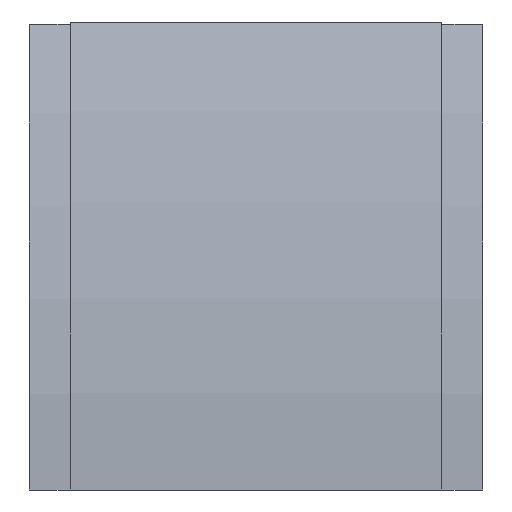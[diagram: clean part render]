
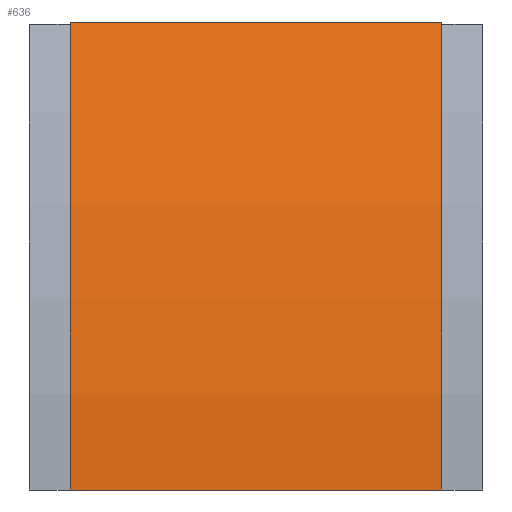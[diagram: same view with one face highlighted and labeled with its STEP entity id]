
A CAD part, front view. The second image highlights one B-rep face of the part: STEP entity #636.
In plain terms, the highlighted cylindrical face has radius 568 mm (diameter 1136 mm), a partial arc.
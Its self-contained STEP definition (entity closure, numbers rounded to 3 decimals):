
#72 = EDGE_CURVE ( 'NONE', #774, #947, #782, .T. ) ;
#76 = EDGE_CURVE ( 'NONE', #812, #774, #821, .T. ) ;
#113 = EDGE_CURVE ( 'NONE', #775, #947, #998, .T. ) ;
#114 = AXIS2_PLACEMENT_3D ( 'NONE', #360, #583, #584 ) ;
#115 = EDGE_CURVE ( 'NONE', #812, #775, #996, .T. ) ;
#216 = ORIENTED_EDGE ( 'NONE', *, *, #72, .T. ) ;
#290 = ORIENTED_EDGE ( 'NONE', *, *, #113, .F. ) ;
#291 = ORIENTED_EDGE ( 'NONE', *, *, #115, .F. ) ;
#292 = ORIENTED_EDGE ( 'NONE', *, *, #76, .T. ) ;
#312 = EDGE_LOOP ( 'NONE', ( #290, #291, #292, #216 ) ) ;
#360 = CARTESIAN_POINT ( 'NONE',  ( -95.25, 500., 0. ) ) ;
#440 = DIRECTION ( 'NONE',  ( 1., 0., 0. ) ) ;
#442 = DIRECTION ( 'NONE',  ( 0., 0., -1. ) ) ;
#445 = CARTESIAN_POINT ( 'NONE',  ( 0., 500., 0. ) ) ;
#513 = CARTESIAN_POINT ( 'NONE',  ( -95.25, -68., 0. ) ) ;
#525 = CARTESIAN_POINT ( 'NONE',  ( 95.25, -14.783, 240.047 ) ) ;
#528 = CARTESIAN_POINT ( 'NONE',  ( -95.25, -14.783, 240.047 ) ) ;
#547 = CARTESIAN_POINT ( 'NONE',  ( -95.25, -14.783, 240.047 ) ) ;
#548 = DIRECTION ( 'NONE',  ( 1., 0., 0. ) ) ;
#553 = CARTESIAN_POINT ( 'NONE',  ( 95.25, 500., 0. ) ) ;
#554 = DIRECTION ( 'NONE',  ( 1., 0., 0. ) ) ;
#555 = DIRECTION ( 'NONE',  ( 0., 0., -1. ) ) ;
#583 = DIRECTION ( 'NONE',  ( 1., 0., 0. ) ) ;
#584 = DIRECTION ( 'NONE',  ( 0., 0., -1. ) ) ;
#609 = CARTESIAN_POINT ( 'NONE',  ( -95.25, -68., 0. ) ) ;
#613 = DIRECTION ( 'NONE',  ( 1., 0., 0. ) ) ;
#636 = ADVANCED_FACE ( 'NONE', ( #985 ), #975, .T. ) ;
#704 = CARTESIAN_POINT ( 'NONE',  ( 95.25, -68., 0. ) ) ;
#720 = AXIS2_PLACEMENT_3D ( 'NONE', #553, #554, #555 ) ;
#754 = AXIS2_PLACEMENT_3D ( 'NONE', #445, #440, #442 ) ;
#774 = VERTEX_POINT ( 'NONE', #513 ) ;
#775 = VERTEX_POINT ( 'NONE', #525 ) ;
#782 = LINE ( 'NONE', #609, #818 ) ;
#812 = VERTEX_POINT ( 'NONE', #528 ) ;
#818 = VECTOR ( 'NONE', #613, 1000. ) ;
#821 = CIRCLE ( 'NONE', #114, 568. ) ;
#926 = VECTOR ( 'NONE', #548, 1000. ) ;
#947 = VERTEX_POINT ( 'NONE', #704 ) ;
#975 = CYLINDRICAL_SURFACE ( 'NONE', #754, 568. ) ;
#985 = FACE_OUTER_BOUND ( 'NONE', #312, .T. ) ;
#996 = LINE ( 'NONE', #547, #926 ) ;
#998 = CIRCLE ( 'NONE', #720, 568. ) ;
